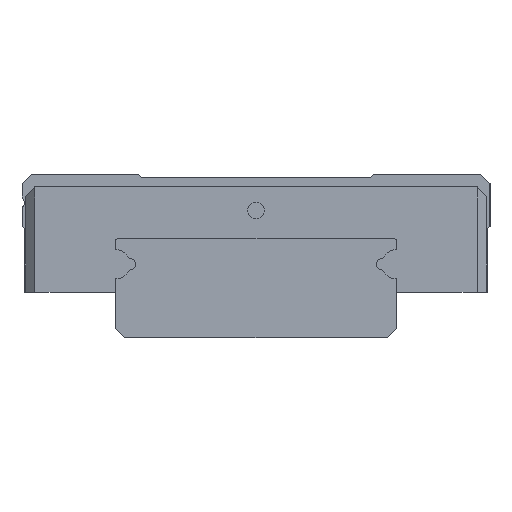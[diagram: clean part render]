
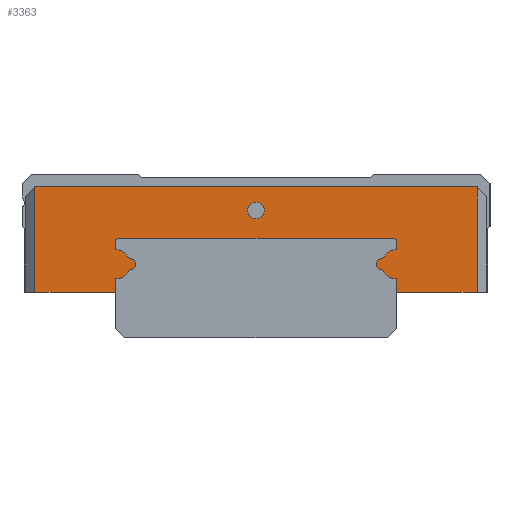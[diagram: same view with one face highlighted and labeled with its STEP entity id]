
A CAD part, left-side view. The second image highlights one B-rep face of the part: STEP entity #3363.
In plain terms, the highlighted planar face has unit normal (-1, 0, 0).
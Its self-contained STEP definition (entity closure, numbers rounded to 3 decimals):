
#1601=CARTESIAN_POINT('',(0.0,-18.9,3.9));
#1602=VERTEX_POINT('',#1601);
#1609=CARTESIAN_POINT('',(0.0,-12.,3.9));
#1610=VERTEX_POINT('',#1609);
#1611=CARTESIAN_POINT('',(0.0,-12.,3.9));
#1612=DIRECTION('',(0.0,-1.0,0.0));
#1613=VECTOR('',#1612,6.9);
#1614=LINE('',#1611,#1613);
#1615=EDGE_CURVE('',#1610,#1602,#1614,.T.);
#1827=CARTESIAN_POINT('',(0.0,0.7,10.9));
#1828=VERTEX_POINT('',#1827);
#1829=CARTESIAN_POINT('',(0.0,0.,10.9));
#1830=DIRECTION('',(1.0,0.0,0.0));
#1831=DIRECTION('',(0.0,-1.0,0.0));
#1832=AXIS2_PLACEMENT_3D('',#1829,#1830,#1831);
#1833=CIRCLE('',#1832,0.7);
#1834=EDGE_CURVE('',#1828,#1828,#1833,.T.);
#2731=CARTESIAN_POINT('',(0.0,18.9,12.9));
#2732=VERTEX_POINT('',#2731);
#2739=CARTESIAN_POINT('',(0.0,-18.9,12.9));
#2740=VERTEX_POINT('',#2739);
#2741=CARTESIAN_POINT('',(0.0,-18.9,12.9));
#2742=DIRECTION('',(0.0,1.0,0.0));
#2743=VECTOR('',#2742,37.8);
#2744=LINE('',#2741,#2743);
#2745=EDGE_CURVE('',#2740,#2732,#2744,.T.);
#2782=CARTESIAN_POINT('',(0.0,-18.9,3.9));
#2783=DIRECTION('',(0.0,0.0,1.0));
#2784=VECTOR('',#2783,9.);
#2785=LINE('',#2782,#2784);
#2786=EDGE_CURVE('',#1602,#2740,#2785,.T.);
#2815=CARTESIAN_POINT('',(0.0,18.9,3.9));
#2816=VERTEX_POINT('',#2815);
#2823=CARTESIAN_POINT('',(0.0,18.9,12.9));
#2824=DIRECTION('',(0.0,0.0,-1.0));
#2825=VECTOR('',#2824,9.);
#2826=LINE('',#2823,#2825);
#2827=EDGE_CURVE('',#2732,#2816,#2826,.T.);
#2872=CARTESIAN_POINT('',(0.0,12.,3.9));
#2873=VERTEX_POINT('',#2872);
#2880=CARTESIAN_POINT('',(0.0,18.9,3.9));
#2881=DIRECTION('',(0.0,-1.0,0.0));
#2882=VECTOR('',#2881,6.9);
#2883=LINE('',#2880,#2882);
#2884=EDGE_CURVE('',#2816,#2873,#2883,.T.);
#2909=CARTESIAN_POINT('',(0.0,12.,5.05));
#2910=VERTEX_POINT('',#2909);
#2917=CARTESIAN_POINT('',(0.0,12.,3.9));
#2918=DIRECTION('',(0.0,0.0,1.0));
#2919=VECTOR('',#2918,1.15);
#2920=LINE('',#2917,#2919);
#2921=EDGE_CURVE('',#2873,#2910,#2920,.T.);
#2941=CARTESIAN_POINT('',(0.0,10.853,5.803));
#2942=VERTEX_POINT('',#2941);
#2949=CARTESIAN_POINT('',(0.0,12.,6.3));
#2950=DIRECTION('',(-1.,0.0,0.0));
#2951=DIRECTION('',(0.0,0.917,0.398));
#2952=AXIS2_PLACEMENT_3D('',#2949,#2950,#2951);
#2953=CIRCLE('',#2952,1.25);
#2954=EDGE_CURVE('',#2910,#2942,#2953,.T.);
#2974=CARTESIAN_POINT('',(0.0,10.853,6.797));
#2975=VERTEX_POINT('',#2974);
#2982=CARTESIAN_POINT('',(0.0,10.8,6.3));
#2983=DIRECTION('',(-1.,0.0,0.0));
#2984=DIRECTION('',(0.0,-0.106,-0.994));
#2985=AXIS2_PLACEMENT_3D('',#2982,#2983,#2984);
#2986=CIRCLE('',#2985,0.5);
#2987=EDGE_CURVE('',#2942,#2975,#2986,.T.);
#3007=CARTESIAN_POINT('',(0.0,12.,7.55));
#3008=VERTEX_POINT('',#3007);
#3015=CARTESIAN_POINT('',(0.0,12.,6.3));
#3016=DIRECTION('',(-1.0,0.0,0.0));
#3017=DIRECTION('',(0.0,0.0,-1.0));
#3018=AXIS2_PLACEMENT_3D('',#3015,#3016,#3017);
#3019=CIRCLE('',#3018,1.25);
#3020=EDGE_CURVE('',#2975,#3008,#3019,.T.);
#3039=CARTESIAN_POINT('',(0.0,12.,8.25));
#3040=VERTEX_POINT('',#3039);
#3047=CARTESIAN_POINT('',(0.0,12.,7.55));
#3048=DIRECTION('',(0.0,0.0,1.0));
#3049=VECTOR('',#3048,0.7);
#3050=LINE('',#3047,#3049);
#3051=EDGE_CURVE('',#3008,#3040,#3050,.T.);
#3071=CARTESIAN_POINT('',(0.0,11.75,8.5));
#3072=VERTEX_POINT('',#3071);
#3079=CARTESIAN_POINT('',(0.0,11.75,8.25));
#3080=DIRECTION('',(1.0,0.0,0.0));
#3081=DIRECTION('',(0.0,1.0,0.0));
#3082=AXIS2_PLACEMENT_3D('',#3079,#3080,#3081);
#3083=CIRCLE('',#3082,0.25);
#3084=EDGE_CURVE('',#3040,#3072,#3083,.T.);
#3103=CARTESIAN_POINT('',(0.0,-11.75,8.5));
#3104=VERTEX_POINT('',#3103);
#3111=CARTESIAN_POINT('',(0.0,11.75,8.5));
#3112=DIRECTION('',(0.0,-1.0,0.0));
#3113=VECTOR('',#3112,23.5);
#3114=LINE('',#3111,#3113);
#3115=EDGE_CURVE('',#3072,#3104,#3114,.T.);
#3135=CARTESIAN_POINT('',(0.0,-12.,8.25));
#3136=VERTEX_POINT('',#3135);
#3143=CARTESIAN_POINT('',(0.0,-11.75,8.25));
#3144=DIRECTION('',(1.0,0.0,0.0));
#3145=DIRECTION('',(0.0,0.0,1.0));
#3146=AXIS2_PLACEMENT_3D('',#3143,#3144,#3145);
#3147=CIRCLE('',#3146,0.25);
#3148=EDGE_CURVE('',#3104,#3136,#3147,.T.);
#3167=CARTESIAN_POINT('',(0.0,-12.,7.55));
#3168=VERTEX_POINT('',#3167);
#3175=CARTESIAN_POINT('',(0.0,-12.,8.25));
#3176=DIRECTION('',(0.0,0.0,-1.0));
#3177=VECTOR('',#3176,0.7);
#3178=LINE('',#3175,#3177);
#3179=EDGE_CURVE('',#3136,#3168,#3178,.T.);
#3199=CARTESIAN_POINT('',(0.0,-10.853,6.797));
#3200=VERTEX_POINT('',#3199);
#3207=CARTESIAN_POINT('',(0.0,-12.,6.3));
#3208=DIRECTION('',(-1.,0.0,0.0));
#3209=DIRECTION('',(0.0,-0.918,-0.398));
#3210=AXIS2_PLACEMENT_3D('',#3207,#3208,#3209);
#3211=CIRCLE('',#3210,1.25);
#3212=EDGE_CURVE('',#3168,#3200,#3211,.T.);
#3232=CARTESIAN_POINT('',(0.0,-10.853,5.803));
#3233=VERTEX_POINT('',#3232);
#3240=CARTESIAN_POINT('',(0.0,-10.8,6.3));
#3241=DIRECTION('',(-1.,0.0,0.0));
#3242=DIRECTION('',(0.0,0.106,0.994));
#3243=AXIS2_PLACEMENT_3D('',#3240,#3241,#3242);
#3244=CIRCLE('',#3243,0.5);
#3245=EDGE_CURVE('',#3200,#3233,#3244,.T.);
#3265=CARTESIAN_POINT('',(0.0,-12.,5.05));
#3266=VERTEX_POINT('',#3265);
#3273=CARTESIAN_POINT('',(0.0,-12.,6.3));
#3274=DIRECTION('',(-1.0,0.0,0.0));
#3275=DIRECTION('',(0.0,0.0,1.0));
#3276=AXIS2_PLACEMENT_3D('',#3273,#3274,#3275);
#3277=CIRCLE('',#3276,1.25);
#3278=EDGE_CURVE('',#3233,#3266,#3277,.T.);
#3296=CARTESIAN_POINT('',(0.0,-12.,5.05));
#3297=DIRECTION('',(0.0,0.0,-1.0));
#3298=VECTOR('',#3297,1.15);
#3299=LINE('',#3296,#3298);
#3300=EDGE_CURVE('',#3266,#1610,#3299,.T.);
#3335=CARTESIAN_POINT('',(0.0,0.,9.162));
#3336=DIRECTION('',(1.0,0.0,0.0));
#3337=DIRECTION('',(0.0,0.0,-1.0));
#3338=AXIS2_PLACEMENT_3D('',#3335,#3336,#3337);
#3339=PLANE('',#3338);
#3340=ORIENTED_EDGE('',*,*,#1615,.T.);
#3341=ORIENTED_EDGE('',*,*,#2786,.T.);
#3342=ORIENTED_EDGE('',*,*,#2745,.T.);
#3343=ORIENTED_EDGE('',*,*,#2827,.T.);
#3344=ORIENTED_EDGE('',*,*,#2884,.T.);
#3345=ORIENTED_EDGE('',*,*,#2921,.T.);
#3346=ORIENTED_EDGE('',*,*,#2954,.T.);
#3347=ORIENTED_EDGE('',*,*,#2987,.T.);
#3348=ORIENTED_EDGE('',*,*,#3020,.T.);
#3349=ORIENTED_EDGE('',*,*,#3051,.T.);
#3350=ORIENTED_EDGE('',*,*,#3084,.T.);
#3351=ORIENTED_EDGE('',*,*,#3115,.T.);
#3352=ORIENTED_EDGE('',*,*,#3148,.T.);
#3353=ORIENTED_EDGE('',*,*,#3179,.T.);
#3354=ORIENTED_EDGE('',*,*,#3212,.T.);
#3355=ORIENTED_EDGE('',*,*,#3245,.T.);
#3356=ORIENTED_EDGE('',*,*,#3278,.T.);
#3357=ORIENTED_EDGE('',*,*,#3300,.T.);
#3358=EDGE_LOOP('',(#3340,#3341,#3342,#3343,#3344,#3345,#3346,#3347,#3348,#3349,#3350,#3351,#3352,#3353,#3354,#3355,#3356,#3357));
#3359=FACE_OUTER_BOUND('',#3358,.T.);
#3360=ORIENTED_EDGE('',*,*,#1834,.T.);
#3361=EDGE_LOOP('',(#3360));
#3362=FACE_BOUND('',#3361,.T.);
#3363=ADVANCED_FACE('',(#3359,#3362),#3339,.F.);
